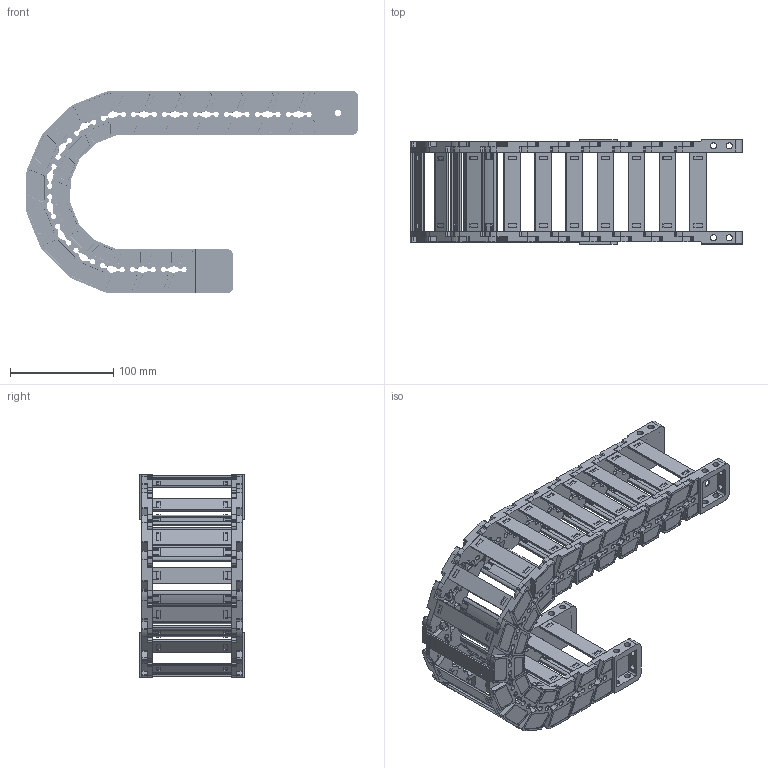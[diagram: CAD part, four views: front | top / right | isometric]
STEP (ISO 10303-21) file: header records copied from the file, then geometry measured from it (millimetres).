
FILE_DESCRIPTION((''),'2;1');
FILE_NAME('JY-35X77-R75_ASM','2025-01-05T19:06:44',('admin'),(''),'CREO PARAMETRIC BY PTC INC, 2021023','CREO PARAMETRIC BY PTC INC, 2021023','');
FILE_SCHEMA(('CONFIG_CONTROL_DESIGN'));
Length unit declared in the file: millimetre
Products named in the file (11): 35XL-L; YP; 35XL-R; ASM0001_ASM; 35-LTT-A-L; 35-LTT-A-R; 35XL-LTT-A_ASM; 35-LTT-B-L; 35-LTT-B-R; 35XL-LTT-B_ASM; JY-35X77-R75_ASM
Assembly tree (29 placements, depth 3):
  JY-35X77-R75_ASM
    ASM0001_ASM  x15
      35XL-L
      YP
      35XL-R
    35XL-LTT-A_ASM
      35-LTT-A-L
      YP  x2
      35-LTT-A-R
    35XL-LTT-B_ASM
      35-LTT-B-L
      YP  x2
      35-LTT-B-R
Bounding box: 321.72 x 101 x 196.34 mm (x, y, z)
Volume: 503289.3 mm3; surface area: 302490.1 mm2
Topology: 68 solids, 68 shells, 5536 faces, 16584 edges, 11192 vertices
Faces by surface type: plane 3130, cylinder 1830, cone 352, extrusion 128, bspline 96
Entity records: 27842 total; most frequent: CARTESIAN_POINT 6162, ORIENTED_EDGE 4640, DIRECTION 4353, EDGE_CURVE 2320, VERTEX_POINT 1568, AXIS2_PLACEMENT_3D 1468, VECTOR 1417, LINE 1401
